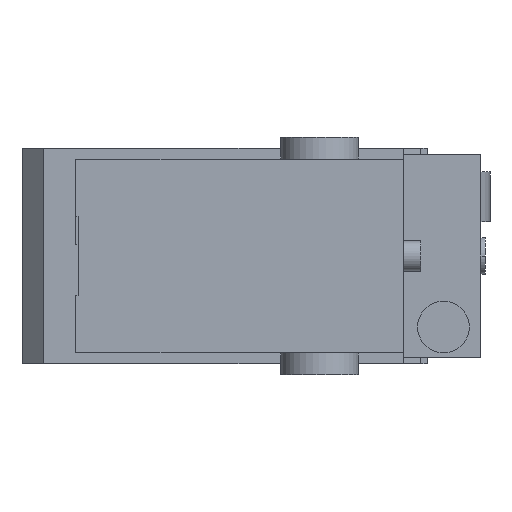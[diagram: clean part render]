
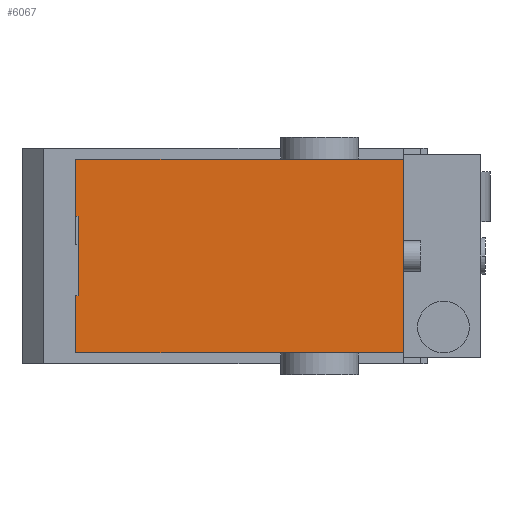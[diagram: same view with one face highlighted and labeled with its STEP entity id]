
A CAD part, front view. The second image highlights one B-rep face of the part: STEP entity #6067.
In plain terms, the highlighted planar face has unit normal (0, -1, 0).
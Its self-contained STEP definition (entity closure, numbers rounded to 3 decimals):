
#395 = ORIENTED_EDGE ( 'NONE', *, *, #7520, .F. ) ;
#407 = CARTESIAN_POINT ( 'NONE',  ( -34.5, -183.5, 22.5 ) ) ;
#895 = DIRECTION ( 'NONE',  ( 0., 0., 1. ) ) ;
#943 = VERTEX_POINT ( 'NONE', #5542 ) ;
#1152 = LINE ( 'NONE', #11534, #8437 ) ;
#1576 = VERTEX_POINT ( 'NONE', #7509 ) ;
#1974 = VERTEX_POINT ( 'NONE', #8120 ) ;
#1975 = LINE ( 'NONE', #9338, #12528 ) ;
#2305 = EDGE_CURVE ( 'NONE', #6814, #1576, #1152, .T. ) ;
#2389 = VECTOR ( 'NONE', #4331, 1000. ) ;
#2443 = VERTEX_POINT ( 'NONE', #8722 ) ;
#2615 = ORIENTED_EDGE ( 'NONE', *, *, #4056, .F. ) ;
#2707 = LINE ( 'NONE', #9304, #2389 ) ;
#2797 = VECTOR ( 'NONE', #6683, 1000. ) ;
#3031 = VECTOR ( 'NONE', #6509, 1000. ) ;
#3055 = CARTESIAN_POINT ( 'NONE',  ( -34.5, -183.5, 9.25 ) ) ;
#3150 = ORIENTED_EDGE ( 'NONE', *, *, #4969, .F. ) ;
#3378 = DIRECTION ( 'NONE',  ( 0., 0., 1. ) ) ;
#3580 = DIRECTION ( 'NONE',  ( 0., 0., -1. ) ) ;
#3851 = CARTESIAN_POINT ( 'NONE',  ( -34.5, -183.5, -22.5 ) ) ;
#3874 = ORIENTED_EDGE ( 'NONE', *, *, #2305, .F. ) ;
#3946 = ORIENTED_EDGE ( 'NONE', *, *, #9255, .F. ) ;
#4056 = EDGE_CURVE ( 'NONE', #9335, #6078, #9349, .T. ) ;
#4331 = DIRECTION ( 'NONE',  ( 1., 0., 0. ) ) ;
#4963 = CARTESIAN_POINT ( 'NONE',  ( 41.5, -183.5, 22.5 ) ) ;
#4969 = EDGE_CURVE ( 'NONE', #1576, #2443, #10731, .T. ) ;
#5012 = CARTESIAN_POINT ( 'NONE',  ( -34.5, -183.5, 9.25 ) ) ;
#5528 = CARTESIAN_POINT ( 'NONE',  ( -34.5, -183.5, 9.25 ) ) ;
#5542 = CARTESIAN_POINT ( 'NONE',  ( -34., -183.5, -9.25 ) ) ;
#5636 = LINE ( 'NONE', #5528, #3031 ) ;
#5670 = CARTESIAN_POINT ( 'NONE',  ( -34., -183.5, 9.25 ) ) ;
#6067 = ADVANCED_FACE ( 'NONE', ( #9925 ), #11875, .F. ) ;
#6078 = VERTEX_POINT ( 'NONE', #9914 ) ;
#6509 = DIRECTION ( 'NONE',  ( -1., 0., 0. ) ) ;
#6571 = VECTOR ( 'NONE', #11365, 1000. ) ;
#6677 = VECTOR ( 'NONE', #9043, 1000. ) ;
#6683 = DIRECTION ( 'NONE',  ( -1., 0., 0. ) ) ;
#6814 = VERTEX_POINT ( 'NONE', #4963 ) ;
#6828 = CARTESIAN_POINT ( 'NONE',  ( 3.5, -183.5, 0. ) ) ;
#6875 = DIRECTION ( 'NONE',  ( 0., 0., 1. ) ) ;
#7509 = CARTESIAN_POINT ( 'NONE',  ( 41.5, -183.5, -22.5 ) ) ;
#7520 = EDGE_CURVE ( 'NONE', #943, #11817, #1975, .T. ) ;
#7568 = VECTOR ( 'NONE', #895, 1000. ) ;
#7618 = EDGE_CURVE ( 'NONE', #11817, #9335, #5636, .T. ) ;
#7636 = ORIENTED_EDGE ( 'NONE', *, *, #8359, .F. ) ;
#7886 = LINE ( 'NONE', #3851, #7568 ) ;
#8120 = CARTESIAN_POINT ( 'NONE',  ( -34.5, -183.5, -9.25 ) ) ;
#8359 = EDGE_CURVE ( 'NONE', #1974, #943, #2707, .T. ) ;
#8427 = ORIENTED_EDGE ( 'NONE', *, *, #7618, .F. ) ;
#8437 = VECTOR ( 'NONE', #3580, 1000. ) ;
#8722 = CARTESIAN_POINT ( 'NONE',  ( -34.5, -183.5, -22.5 ) ) ;
#8835 = ORIENTED_EDGE ( 'NONE', *, *, #11048, .F. ) ;
#9043 = DIRECTION ( 'NONE',  ( 0., 0., 1. ) ) ;
#9241 = LINE ( 'NONE', #407, #6571 ) ;
#9255 = EDGE_CURVE ( 'NONE', #2443, #1974, #7886, .T. ) ;
#9304 = CARTESIAN_POINT ( 'NONE',  ( -34.5, -183.5, -9.25 ) ) ;
#9335 = VERTEX_POINT ( 'NONE', #5012 ) ;
#9338 = CARTESIAN_POINT ( 'NONE',  ( -34., -183.5, -9.25 ) ) ;
#9349 = LINE ( 'NONE', #3055, #6677 ) ;
#9914 = CARTESIAN_POINT ( 'NONE',  ( -34.5, -183.5, 22.5 ) ) ;
#9925 = FACE_OUTER_BOUND ( 'NONE', #10751, .T. ) ;
#10731 = LINE ( 'NONE', #11721, #2797 ) ;
#10751 = EDGE_LOOP ( 'NONE', ( #3946, #3150, #3874, #8835, #2615, #8427, #395, #7636 ) ) ;
#11047 = AXIS2_PLACEMENT_3D ( 'NONE', #6828, #12852, #6875 ) ;
#11048 = EDGE_CURVE ( 'NONE', #6078, #6814, #9241, .T. ) ;
#11365 = DIRECTION ( 'NONE',  ( 1., 0., 0. ) ) ;
#11534 = CARTESIAN_POINT ( 'NONE',  ( 41.5, -183.5, -22.5 ) ) ;
#11721 = CARTESIAN_POINT ( 'NONE',  ( -34.5, -183.5, -22.5 ) ) ;
#11817 = VERTEX_POINT ( 'NONE', #5670 ) ;
#11875 = PLANE ( 'NONE',  #11047 ) ;
#12528 = VECTOR ( 'NONE', #3378, 1000. ) ;
#12852 = DIRECTION ( 'NONE',  ( 0., 1., 0. ) ) ;
